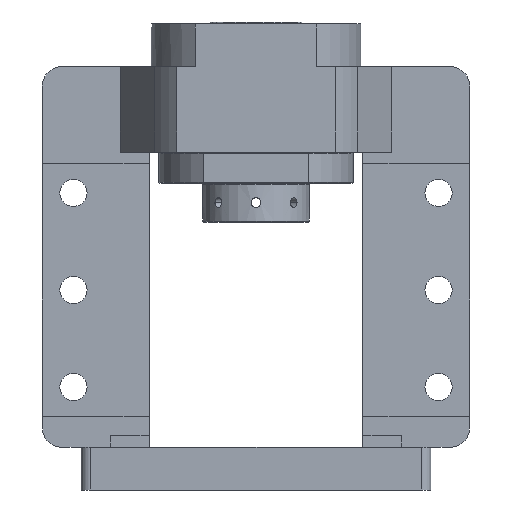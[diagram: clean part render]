
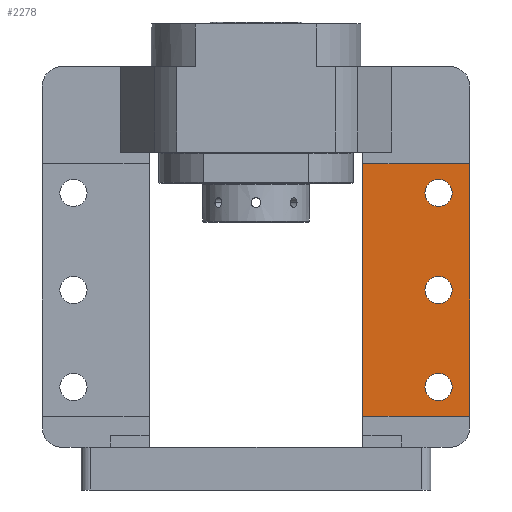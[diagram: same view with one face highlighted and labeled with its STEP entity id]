
A CAD part, front view. The second image highlights one B-rep face of the part: STEP entity #2278.
In plain terms, the highlighted planar face has unit normal (0, -1, 0).
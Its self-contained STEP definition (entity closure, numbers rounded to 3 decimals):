
#179 = DIRECTION ( 'NONE',  ( 0., -1., 0. ) ) ;
#262 = VECTOR ( 'NONE', #24560, 1000. ) ;
#290 = CARTESIAN_POINT ( 'NONE',  ( 94., 0., 160. ) ) ;
#993 = CARTESIAN_POINT ( 'NONE',  ( 110., 0., 225. ) ) ;
#1604 = VERTEX_POINT ( 'NONE', #22328 ) ;
#1627 = CARTESIAN_POINT ( 'NONE',  ( 55., 0., 168. ) ) ;
#1800 = ORIENTED_EDGE ( 'NONE', *, *, #19928, .T. ) ;
#2233 = FACE_BOUND ( 'NONE', #7511, .T. ) ;
#2278 = ADVANCED_FACE ( 'NONE', ( #8483, #26394, #2233, #20197 ), #11167, .T. ) ;
#2665 = ORIENTED_EDGE ( 'NONE', *, *, #5415, .F. ) ;
#2998 = ORIENTED_EDGE ( 'NONE', *, *, #16969, .F. ) ;
#3470 = VERTEX_POINT ( 'NONE', #16602 ) ;
#3926 = ORIENTED_EDGE ( 'NONE', *, *, #10331, .F. ) ;
#3968 = CARTESIAN_POINT ( 'NONE',  ( 94., 0., 110. ) ) ;
#4107 = CARTESIAN_POINT ( 'NONE',  ( 55., 0., 225. ) ) ;
#4186 = CARTESIAN_POINT ( 'NONE',  ( 94., 0., 103. ) ) ;
#4214 = ORIENTED_EDGE ( 'NONE', *, *, #7215, .T. ) ;
#5087 = LINE ( 'NONE', #4107, #16749 ) ;
#5415 = EDGE_CURVE ( 'NONE', #1604, #30400, #18980, .T. ) ;
#5894 = CIRCLE ( 'NONE', #5923, 7. ) ;
#5923 = AXIS2_PLACEMENT_3D ( 'NONE', #4186, #20524, #6520 ) ;
#6399 = CARTESIAN_POINT ( 'NONE',  ( 110., 0., 38. ) ) ;
#6401 = DIRECTION ( 'NONE',  ( 0., -1., 0. ) ) ;
#6503 = DIRECTION ( 'NONE',  ( 0., -1., 0. ) ) ;
#6520 = DIRECTION ( 'NONE',  ( 0., 0., -1. ) ) ;
#7215 = EDGE_CURVE ( 'NONE', #9267, #3470, #5087, .T. ) ;
#7511 = EDGE_LOOP ( 'NONE', ( #2998, #3926 ) ) ;
#8395 = CARTESIAN_POINT ( 'NONE',  ( 94., 0., 146. ) ) ;
#8483 = FACE_BOUND ( 'NONE', #18045, .T. ) ;
#8692 = CIRCLE ( 'NONE', #26833, 7. ) ;
#8783 = ORIENTED_EDGE ( 'NONE', *, *, #9449, .F. ) ;
#8925 = DIRECTION ( 'NONE',  ( 0., 0., -1. ) ) ;
#9267 = VERTEX_POINT ( 'NONE', #1627 ) ;
#9449 = EDGE_CURVE ( 'NONE', #20911, #24696, #20775, .T. ) ;
#9474 = VECTOR ( 'NONE', #24022, 1000. ) ;
#9643 = VERTEX_POINT ( 'NONE', #16251 ) ;
#10141 = DIRECTION ( 'NONE',  ( 0., -1., 0. ) ) ;
#10331 = EDGE_CURVE ( 'NONE', #19199, #9643, #8692, .T. ) ;
#11167 = PLANE ( 'NONE',  #13821 ) ;
#13544 = AXIS2_PLACEMENT_3D ( 'NONE', #20405, #6401, #22756 ) ;
#13545 = EDGE_CURVE ( 'NONE', #3470, #30400, #29550, .T. ) ;
#13589 = CARTESIAN_POINT ( 'NONE',  ( 94., 0., 153. ) ) ;
#13821 = AXIS2_PLACEMENT_3D ( 'NONE', #15849, #22933, #8925 ) ;
#13832 = VERTEX_POINT ( 'NONE', #16934 ) ;
#14241 = CARTESIAN_POINT ( 'NONE',  ( 94., 0., 53. ) ) ;
#15668 = LINE ( 'NONE', #19281, #9474 ) ;
#15849 = CARTESIAN_POINT ( 'NONE',  ( 110., 0., 225. ) ) ;
#15940 = DIRECTION ( 'NONE',  ( 0., 0., -1. ) ) ;
#16096 = AXIS2_PLACEMENT_3D ( 'NONE', #24157, #10141, #26511 ) ;
#16251 = CARTESIAN_POINT ( 'NONE',  ( 94., 0., 96. ) ) ;
#16597 = DIRECTION ( 'NONE',  ( 0., 0., -1. ) ) ;
#16602 = CARTESIAN_POINT ( 'NONE',  ( 55., 0., 38. ) ) ;
#16732 = ORIENTED_EDGE ( 'NONE', *, *, #17409, .F. ) ;
#16749 = VECTOR ( 'NONE', #27595, 1000. ) ;
#16934 = CARTESIAN_POINT ( 'NONE',  ( 94., 0., 60. ) ) ;
#16969 = EDGE_CURVE ( 'NONE', #9643, #19199, #5894, .T. ) ;
#17089 = EDGE_LOOP ( 'NONE', ( #16732, #21008 ) ) ;
#17409 = EDGE_CURVE ( 'NONE', #18352, #13832, #26358, .T. ) ;
#18045 = EDGE_LOOP ( 'NONE', ( #22172, #8783 ) ) ;
#18352 = VERTEX_POINT ( 'NONE', #27540 ) ;
#18980 = LINE ( 'NONE', #993, #262 ) ;
#19078 = EDGE_CURVE ( 'NONE', #13832, #18352, #19722, .T. ) ;
#19199 = VERTEX_POINT ( 'NONE', #3968 ) ;
#19281 = CARTESIAN_POINT ( 'NONE',  ( 110., 0., 168. ) ) ;
#19312 = CIRCLE ( 'NONE', #16096, 7. ) ;
#19546 = AXIS2_PLACEMENT_3D ( 'NONE', #13589, #30031, #15940 ) ;
#19683 = EDGE_CURVE ( 'NONE', #24696, #20911, #19312, .T. ) ;
#19722 = CIRCLE ( 'NONE', #13544, 7. ) ;
#19928 = EDGE_CURVE ( 'NONE', #1604, #9267, #15668, .T. ) ;
#20197 = FACE_OUTER_BOUND ( 'NONE', #27154, .T. ) ;
#20405 = CARTESIAN_POINT ( 'NONE',  ( 94., 0., 53. ) ) ;
#20506 = CARTESIAN_POINT ( 'NONE',  ( 94., 0., 103. ) ) ;
#20524 = DIRECTION ( 'NONE',  ( 0., -1., 0. ) ) ;
#20775 = CIRCLE ( 'NONE', #19546, 7. ) ;
#20911 = VERTEX_POINT ( 'NONE', #290 ) ;
#21008 = ORIENTED_EDGE ( 'NONE', *, *, #19078, .F. ) ;
#21593 = AXIS2_PLACEMENT_3D ( 'NONE', #14241, #179, #16597 ) ;
#22172 = ORIENTED_EDGE ( 'NONE', *, *, #19683, .F. ) ;
#22328 = CARTESIAN_POINT ( 'NONE',  ( 110., 0., 168. ) ) ;
#22756 = DIRECTION ( 'NONE',  ( 0., 0., -1. ) ) ;
#22857 = DIRECTION ( 'NONE',  ( 0., 0., -1. ) ) ;
#22933 = DIRECTION ( 'NONE',  ( 0., -1., 0. ) ) ;
#24022 = DIRECTION ( 'NONE',  ( -1., 0., 0. ) ) ;
#24157 = CARTESIAN_POINT ( 'NONE',  ( 94., 0., 153. ) ) ;
#24560 = DIRECTION ( 'NONE',  ( 0., 0., -1. ) ) ;
#24696 = VERTEX_POINT ( 'NONE', #8395 ) ;
#25116 = DIRECTION ( 'NONE',  ( 1., 0., 0. ) ) ;
#26358 = CIRCLE ( 'NONE', #21593, 7. ) ;
#26394 = FACE_BOUND ( 'NONE', #17089, .T. ) ;
#26511 = DIRECTION ( 'NONE',  ( 0., 0., -1. ) ) ;
#26833 = AXIS2_PLACEMENT_3D ( 'NONE', #20506, #6503, #22857 ) ;
#27154 = EDGE_LOOP ( 'NONE', ( #2665, #1800, #4214, #27534 ) ) ;
#27534 = ORIENTED_EDGE ( 'NONE', *, *, #13545, .T. ) ;
#27540 = CARTESIAN_POINT ( 'NONE',  ( 94., 0., 46. ) ) ;
#27595 = DIRECTION ( 'NONE',  ( 0., 0., -1. ) ) ;
#28458 = CARTESIAN_POINT ( 'NONE',  ( 110., 0., 38. ) ) ;
#28785 = VECTOR ( 'NONE', #25116, 1000. ) ;
#29550 = LINE ( 'NONE', #6399, #28785 ) ;
#30031 = DIRECTION ( 'NONE',  ( 0., -1., 0. ) ) ;
#30400 = VERTEX_POINT ( 'NONE', #28458 ) ;
